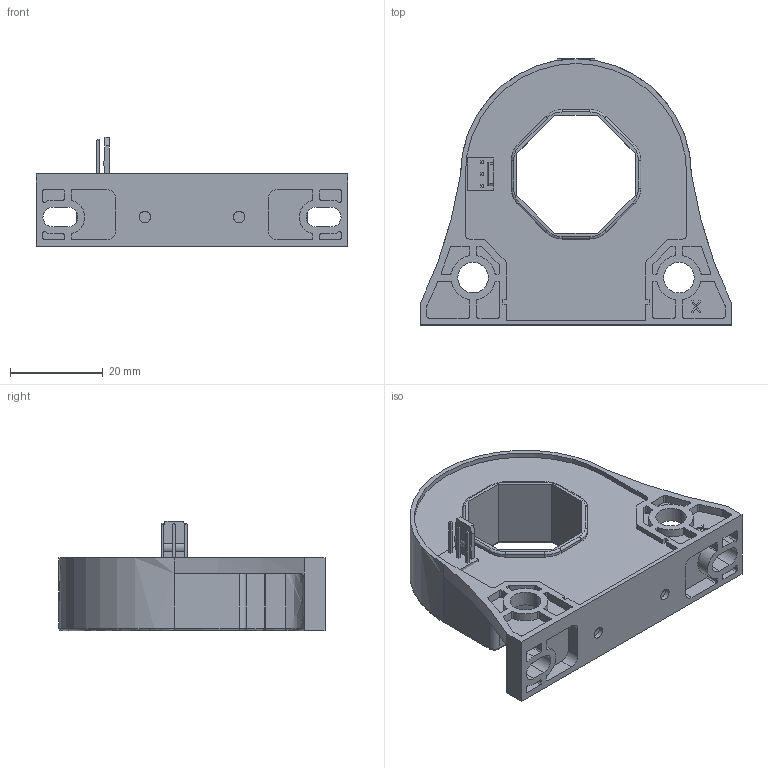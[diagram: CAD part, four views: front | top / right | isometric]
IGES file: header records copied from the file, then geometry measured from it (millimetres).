
Start section: Elysium IGES Interface
Global section: file name: \\Gva25\sd-data\Etudes\GVu\Serie_blackbox\LF306-S_Blackbox.igs; native system: SolidDesigner 15.00B  25-Jun-2007; preprocessor: OneSpace IGES_3D V2.2; author: Unknown; organization: Unknown; date: 20081104.175540; units: millimetre
Bounding box: 67.3 x 57.4 x 23.6 mm (x, y, z)
Volume: 28948.8 mm3; surface area: 14890.3 mm2
Topology: 3 solids, 15 shells, 1264 faces, 3379 edges, 2228 vertices
Faces by surface type: bspline 1264
